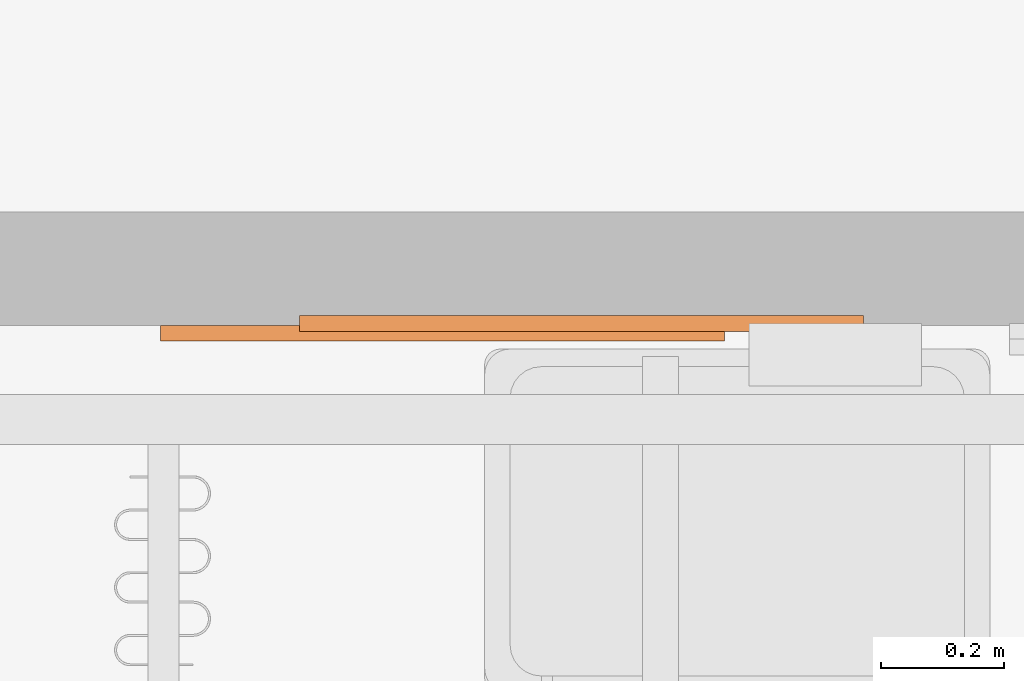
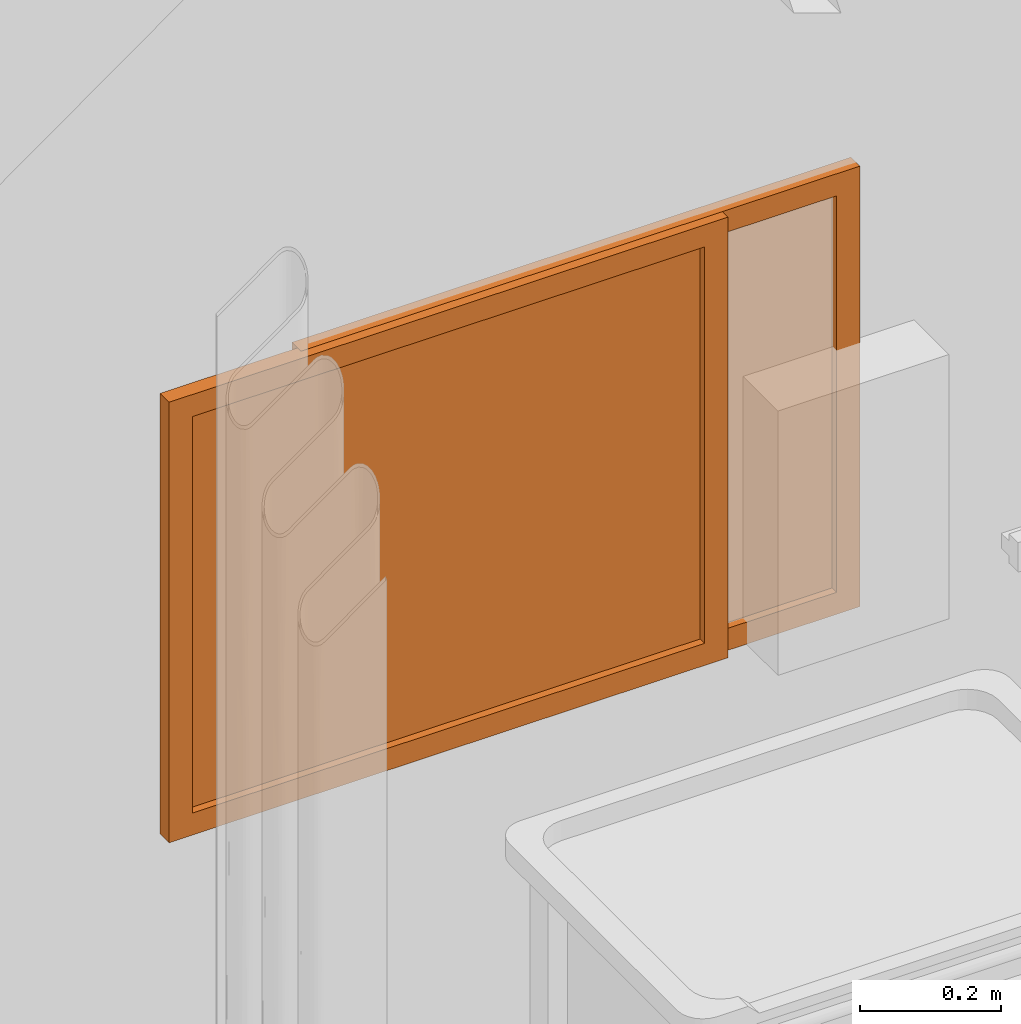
# One storey, part 66 of 142: 2 proxies.
"""IFC2X3 building model written with IfcOpenShell, lengths in feet."""

from ifc_helpers import new_model, entity, si_unit, converted_unit, derived_unit, direction, frame, origin, origin_2d_with_axis, place, context, subcontext, project, spatial, polyline, rectangle, outline, extrude, source, transform, mapped, type_object, type_shapes, element, save


model = new_model("IFC2X3")

# Units and contexts
model_context = context("Model", 3, precision=0.0001, world=origin(), true_north=direction((6.12303176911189e-17, 1.0)))
body_context = subcontext(model_context, "Body", "Model", "MODEL_VIEW")
ifc_project = project(units=[converted_unit("LENGTHUNIT", "FOOT", entity("IfcRatioMeasure", 0.3048), si_unit("LENGTHUNIT", "METRE"), dimensions=[1, 0, 0, 0, 0, 0, 0]), converted_unit("AREAUNIT", "SQUARE FOOT", entity("IfcRatioMeasure", 0.09290304), si_unit("AREAUNIT", "SQUARE_METRE"), dimensions=[2, 0, 0, 0, 0, 0, 0]), converted_unit("VOLUMEUNIT", "CUBIC FOOT", entity("IfcRatioMeasure", 0.028316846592), si_unit("VOLUMEUNIT", "CUBIC_METRE"), dimensions=[3, 0, 0, 0, 0, 0, 0]), converted_unit("PLANEANGLEUNIT", "DEGREE", entity("IfcRatioMeasure", 0.0174532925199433), si_unit("PLANEANGLEUNIT", "RADIAN"), dimensions=[0, 0, 0, 0, 0, 0, 0]), si_unit("MASSUNIT", "GRAM", prefix="KILO"), derived_unit("MASSDENSITYUNIT", [(si_unit("MASSUNIT", "GRAM", prefix="KILO"), 1), (si_unit("LENGTHUNIT", "METRE"), -3)]), si_unit("TIMEUNIT", "SECOND"), si_unit("FREQUENCYUNIT", "HERTZ"), si_unit("THERMODYNAMICTEMPERATUREUNIT", "DEGREE_CELSIUS"), derived_unit("THERMALTRANSMITTANCEUNIT", [(si_unit("MASSUNIT", "GRAM", prefix="KILO"), 1), (si_unit("THERMODYNAMICTEMPERATUREUNIT", "KELVIN"), -1), (si_unit("TIMEUNIT", "SECOND"), -3)]), derived_unit("VOLUMETRICFLOWRATEUNIT", [(si_unit("LENGTHUNIT", "METRE"), 3), (si_unit("TIMEUNIT", "SECOND"), -1)]), si_unit("ELECTRICCURRENTUNIT", "AMPERE"), si_unit("ELECTRICVOLTAGEUNIT", "VOLT"), si_unit("POWERUNIT", "WATT"), si_unit("FORCEUNIT", "NEWTON"), si_unit("ILLUMINANCEUNIT", "LUX"), si_unit("LUMINOUSFLUXUNIT", "LUMEN"), si_unit("LUMINOUSINTENSITYUNIT", "CANDELA"), derived_unit("USERDEFINED", [(si_unit("MASSUNIT", "GRAM", prefix="KILO"), -1), (si_unit("LENGTHUNIT", "METRE"), -2), (si_unit("TIMEUNIT", "SECOND"), 3), (si_unit("LUMINOUSFLUXUNIT", "LUMEN"), 1)]), derived_unit("LINEARVELOCITYUNIT", [(si_unit("LENGTHUNIT", "METRE"), 1), (si_unit("TIMEUNIT", "SECOND"), -1)]), si_unit("PRESSUREUNIT", "PASCAL"), derived_unit("USERDEFINED", [(si_unit("LENGTHUNIT", "METRE"), -2), (si_unit("MASSUNIT", "GRAM", prefix="KILO"), 1), (si_unit("TIMEUNIT", "SECOND"), -2)])], contexts=[model_context])

# Site, building, storey
site_placement = place(None, origin())
site = spatial("IfcSite", under=ifc_project, at=site_placement, Name="Default", CompositionType="ELEMENT")
building_placement = place(site_placement, origin())
building = spatial("IfcBuilding", under=site, at=building_placement, Name="OUTPATIENT / PACT CLINIC (Ch. 265)", CompositionType="ELEMENT")
storey_placement = place(building_placement, origin())
storey = spatial("IfcBuildingStorey", under=building, at=storey_placement, Name="LEVEL 1", CompositionType="ELEMENT", Elevation=0.0)

# Proxy
building_element_proxy_type_1 = type_object("IfcBuildingElementProxyType", Name="F3025 - Board, Bulletin, Wood Framed", PredefinedType="NOTDEFINED")
shared_shape_1 = source(origin(), body_context, "Body", "SweptSolid", [
    extrude(rectangle(XDim=0.0416666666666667, YDim=2.74999999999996, at=origin_2d_with_axis()), frame((0.0, -0.020833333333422, 0.124999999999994), z_axis=(0.0, 0.0, 1.0), x_axis=(0.0, 1.0, 0.0)), (0.0, 0.0, 1.0), 2.25000000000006),
    extrude(outline(polyline([(-1.49999999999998, -1.25), (1.49999999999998, -1.25), (1.49999999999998, 1.25), (-1.49999999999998, 1.25), (-1.49999999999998, -1.25)]), holes=[polyline([(-1.37499999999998, -1.125), (-1.37499999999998, 1.12500000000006), (1.37499999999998, 1.12500000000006), (1.37499999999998, -1.125), (-1.37499999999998, -1.125)])]), frame((0.0, -0.0833333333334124, 1.25), z_axis=(0.0, 1.0, 0.0), x_axis=(-1.0, 0.0, 0.0)), (0.0, 0.0, 1.0), 0.0833333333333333),
])
type_shapes(building_element_proxy_type_1, [shared_shape_1])
proxy_1_placement = place(storey_placement, frame((441.004568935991, -882.972581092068, 4.0)))
element("IfcBuildingElementProxy", 1, at=proxy_1_placement, inside=storey, type_object=building_element_proxy_type_1, Name="F3025 - Board, Bulletin, Wood Framed:F3025 - Board, Bulletin, Wood Framed", ObjectType="F3025 - Board, Bulletin, Wood Framed", context=body_context, shape_type="MappedRepresentation", body=[
    mapped(shared_shape_1, transform((0.0, 0.0, 0.0), scale=1.0)),
])

# Space
space_placement = place(storey_placement, origin())
space = spatial("IfcSpace", under=storey, at=space_placement, Name="EXPA1", CompositionType="ELEMENT", InteriorOrExteriorSpace="INTERNAL")

# Proxy
building_element_proxy_type_2 = type_object("IfcBuildingElementProxyType", Name="F3025 - Board, Bulletin, Wood Framed", PredefinedType="NOTDEFINED")
shared_shape_2 = source(origin(), body_context, "Body", "SweptSolid", [
    extrude(rectangle(XDim=0.0416666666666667, YDim=2.74999999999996, at=origin_2d_with_axis()), frame((0.0, -0.020833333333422, 0.124999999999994), z_axis=(0.0, 0.0, 1.0), x_axis=(0.0, 1.0, 0.0)), (0.0, 0.0, 1.0), 2.25000000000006),
    extrude(outline(polyline([(-1.49999999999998, -1.25), (1.49999999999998, -1.25), (1.49999999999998, 1.25), (-1.49999999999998, 1.25), (-1.49999999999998, -1.25)]), holes=[polyline([(-1.37499999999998, -1.125), (-1.37499999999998, 1.12500000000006), (1.37499999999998, 1.12500000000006), (1.37499999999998, -1.125), (-1.37499999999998, -1.125)])]), frame((0.0, -0.0833333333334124, 1.25), z_axis=(0.0, 1.0, 0.0), x_axis=(-1.0, 0.0, 0.0)), (0.0, 0.0, 1.0), 0.0833333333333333),
])
type_shapes(building_element_proxy_type_2, [shared_shape_2])
proxy_2_placement = place(space_placement, frame((440.265393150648, -883.024555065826, 4.0)))
element("IfcBuildingElementProxy", 2, at=proxy_2_placement, inside=space, type_object=building_element_proxy_type_2, Name="F3025 - Board, Bulletin, Wood Framed1:F3025 - Board, Bulletin, Wood Framed", ObjectType="F3025 - Board, Bulletin, Wood Framed", context=body_context, shape_type="MappedRepresentation", body=[
    mapped(shared_shape_2, transform((0.0, 0.0, 0.0), scale=1.0)),
])

save(model, "model.ifc")
